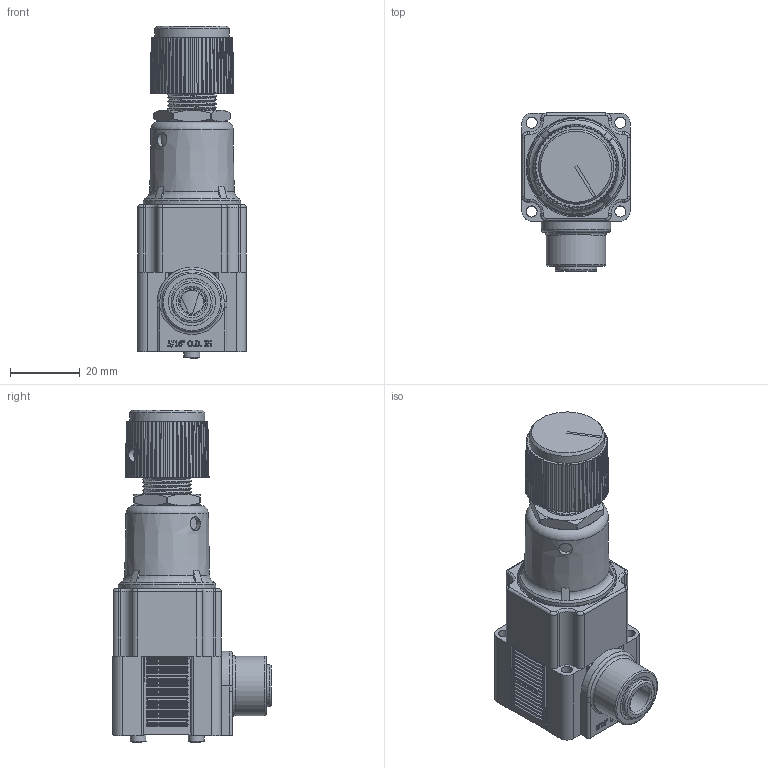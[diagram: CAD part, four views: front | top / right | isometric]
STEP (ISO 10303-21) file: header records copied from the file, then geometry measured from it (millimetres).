
FILE_DESCRIPTION(/* description */ (''),/* implementation_level */ '2;1');
FILE_NAME(/* name */ 'K:\Normteile INVENTOR\Air-Logic\Regulators\R6000\R 6___ 6 Push-In Fitting for 5''16 O.D. Tube In.igs.ipt.stp',/* time_stamp */ '2020-05-27T10:57:37+02:00',/* author */ ('Paul'),/* organization */ (''),/* preprocessor_version */ 'ST-DEVELOPER v18',/* originating_system */ 'Autodesk Inventor 2020',/* authorisation */ '');
FILE_SCHEMA (('AUTOMOTIVE_DESIGN { 1 0 10303 214 3 1 1 }'));
Length unit declared in the file: inch
Products named in the file (1): R 6___ 6 Push-In Fitting for 5'16 O.D. Tube In.igs
Bounding box: 31.19 x 45.41 x 95.02 mm (x, y, z)
Volume: 59079.3 mm3; surface area: 18858.7 mm2
Topology: 1 solids, 1 shells, 1097 faces, 2846 edges, 1840 vertices
Faces by surface type: plane 546, cylinder 352, cone 83, bspline 80, torus 36
Full cylindrical faces by diameter (mm): 1.194 x1, 2.032 x1, 3.124 x2, 3.175 x8, 3.988 x1, 4.064 x1, 4.521 x2, 7.061 x1, 8.001 x1, 8.382 x2, 9.169 x1, 9.398 x1, 11.972 x1, 12.014 x1, 12.903 x1, 13.513 x1, 17.094 x1, 19.406 x1, 21.476 x1, 27.94 x1, 28.575 x1
Entity records: 40296 total; most frequent: CARTESIAN_POINT 12043, DIRECTION 5714, ORIENTED_EDGE 5692, EDGE_CURVE 2846, AXIS2_PLACEMENT_3D 2155, VERTEX_POINT 1840, LINE 1404, VECTOR 1404
